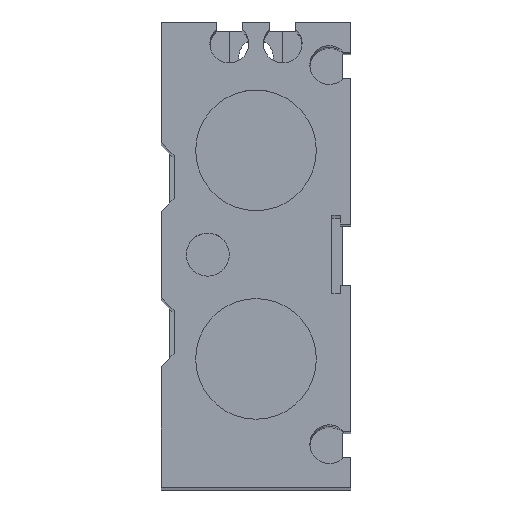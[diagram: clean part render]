
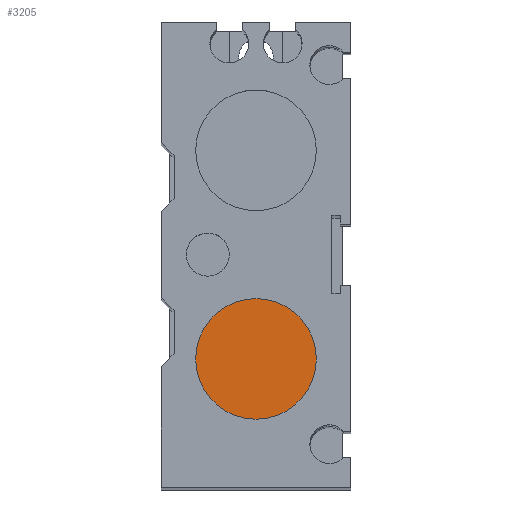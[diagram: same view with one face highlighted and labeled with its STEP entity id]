
A CAD part, top view. The second image highlights one B-rep face of the part: STEP entity #3205.
In plain terms, the highlighted planar face has unit normal (0, 0, 1).
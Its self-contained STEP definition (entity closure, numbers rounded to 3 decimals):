
#3174=CARTESIAN_POINT('',(7.,-12.1,319.));
#3175=VERTEX_POINT('',#3174);
#3176=CARTESIAN_POINT('',(0.,-12.1,319.));
#3177=DIRECTION('',(0.0,0.0,1.0));
#3178=DIRECTION('',(-1.0,0.0,0.0));
#3179=AXIS2_PLACEMENT_3D('',#3176,#3177,#3178);
#3180=CIRCLE('',#3179,7.);
#3181=EDGE_CURVE('',#3175,#3175,#3180,.T.);
#3197=CARTESIAN_POINT('',(0.,-12.1,319.));
#3198=DIRECTION('',(0.0,0.0,-1.0));
#3199=DIRECTION('',(-1.0,0.0,0.0));
#3200=AXIS2_PLACEMENT_3D('',#3197,#3198,#3199);
#3201=PLANE('',#3200);
#3202=ORIENTED_EDGE('',*,*,#3181,.T.);
#3203=EDGE_LOOP('',(#3202));
#3204=FACE_OUTER_BOUND('',#3203,.T.);
#3205=ADVANCED_FACE('',(#3204),#3201,.F.);
